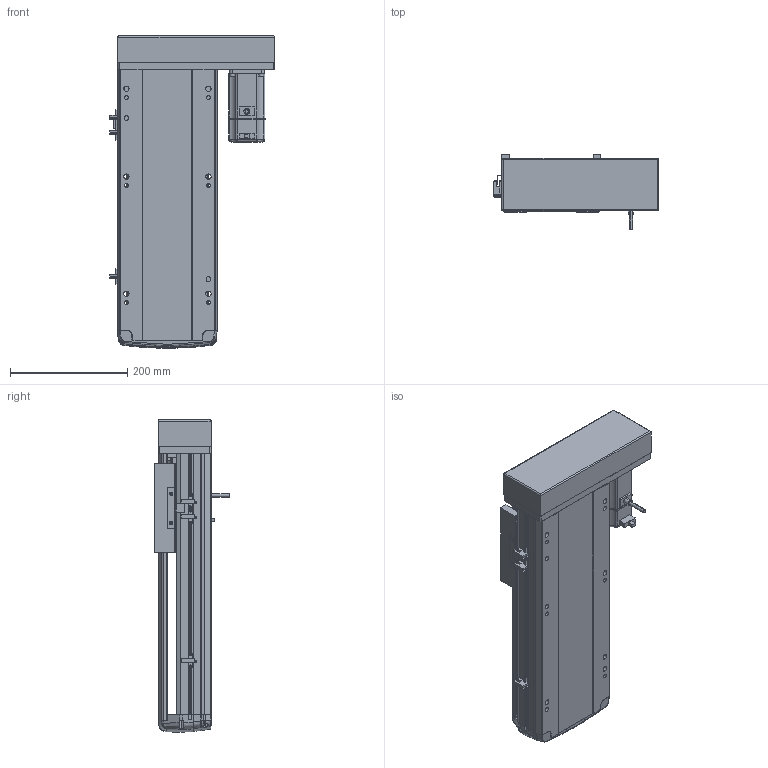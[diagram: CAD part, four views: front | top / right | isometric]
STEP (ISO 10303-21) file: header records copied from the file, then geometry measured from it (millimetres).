
FILE_DESCRIPTION (( 'STEP AP214' ), '1' );
FILE_NAME ('RTH17-XX-250-L-M40-C4.STEP', '2025-10-24T08:43:56', ( '' ), ( '' ), 'SwSTEP 2.0', 'SolidWorks 2018', '' );
FILE_SCHEMA (( 'AUTOMOTIVE_DESIGN' ));
Length unit declared in the file: millimetre
Products named in the file (10): N_RTH-BL-012 感应片(外置)^RTH17-XX-XX-L-M40-C4（方程式）; RTH17-XX-250-L-M40-C4; N_RTH17-L-018盖子^RTH17-XX-XX-L-M40-C4（方程式）; N_RTH17-L-008-P40电机安装板左转折^RTH17-XX-XX-L-M40-C4（方程式）; N_RTH17-M-011底座^RTH17-XX-XX-L-M40-C4（方程式）; N_OMRON EE-SX672 換覜ん^RTH17-XX-XX-L-M40-C4ㄗ源最宒ㄘ; N_M40^RTH17-XX-XX-L-M40-C4（方程式）; N_RTH17-M-007上盖^RTH17-XX-XX-L-M40-C4（方程式）; N_RTH17-E-004丝杆螺母连接座^RTH17-XX-XX-L-M40-C4（方程式）; N_RTH17-GY-001P^RTH17-XX-XX-L-M40-C4（方程式）
Assembly tree (11 placements, depth 2):
  RTH17-XX-250-L-M40-C4
    N_RTH17-M-011底座^RTH17-XX-XX-L-M40-C4（方程式）
    N_RTH17-M-007上盖^RTH17-XX-XX-L-M40-C4（方程式）
    N_M40^RTH17-XX-XX-L-M40-C4（方程式）
    N_OMRON EE-SX672 換覜ん^RTH17-XX-XX-L-M40-C4ㄗ源最宒ㄘ  x3
    N_RTH-BL-012 感应片(外置)^RTH17-XX-XX-L-M40-C4（方程式）
    N_RTH17-L-008-P40电机安装板左转折^RTH17-XX-XX-L-M40-C4（方程式）
    N_RTH17-L-018盖子^RTH17-XX-XX-L-M40-C4（方程式）
    N_RTH17-E-004丝杆螺母连接座^RTH17-XX-XX-L-M40-C4（方程式）
    N_RTH17-GY-001P^RTH17-XX-XX-L-M40-C4（方程式）
Bounding box: 281 x 127 x 533.07 mm (x, y, z)
Volume: 5670126.2 mm3; surface area: 740688.9 mm2
Topology: 13 solids, 15 shells, 1615 faces, 4467 edges, 2910 vertices
Faces by surface type: plane 829, cylinder 419, bspline 330, cone 28, torus 9
Entity records: 46390 total; most frequent: CARTESIAN_POINT 18873, ORIENTED_EDGE 5958, DIRECTION 4909, EDGE_CURVE 2983, VERTEX_POINT 1946, VECTOR 1711, LINE 1711, AXIS2_PLACEMENT_3D 1599
